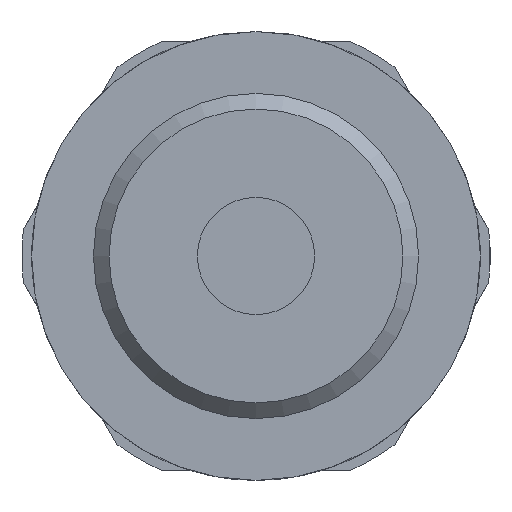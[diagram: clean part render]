
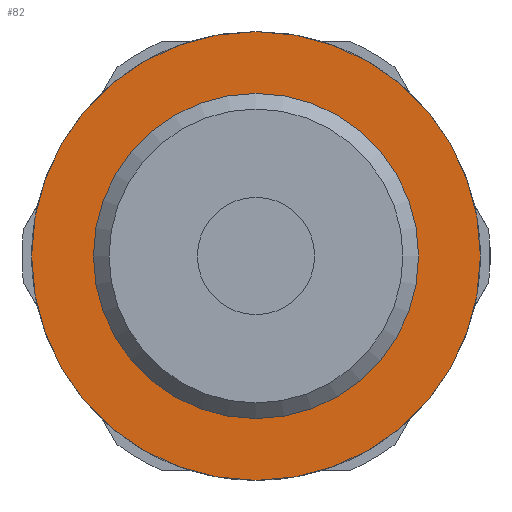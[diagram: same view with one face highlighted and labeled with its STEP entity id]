
A CAD part, front view. The second image highlights one B-rep face of the part: STEP entity #82.
In plain terms, the highlighted planar face has unit normal (0, -1, 0).
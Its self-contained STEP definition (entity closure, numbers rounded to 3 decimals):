
#82 = ADVANCED_FACE( '', ( #137, #138 ), #139, .F. );
#137 = FACE_BOUND( '', #234, .T. );
#138 = FACE_OUTER_BOUND( '', #235, .T. );
#139 = PLANE( '', #236 );
#234 = EDGE_LOOP( '', ( #354 ) );
#235 = EDGE_LOOP( '', ( #355 ) );
#236 = AXIS2_PLACEMENT_3D( '', #356, #357, #358 );
#354 = ORIENTED_EDGE( '', *, *, #622, .F. );
#355 = ORIENTED_EDGE( '', *, *, #623, .T. );
#356 = CARTESIAN_POINT( '', ( 11.5, 0., 0. ) );
#357 = DIRECTION( '', ( 0., 1., 0. ) );
#358 = DIRECTION( '', ( 0., 0., 1. ) );
#622 = EDGE_CURVE( '', #718, #718, #719, .T. );
#623 = EDGE_CURVE( '', #720, #720, #721, .T. );
#718 = VERTEX_POINT( '', #866 );
#719 = CIRCLE( '', #867, 8.331 );
#720 = VERTEX_POINT( '', #868 );
#721 = CIRCLE( '', #869, 11.5 );
#866 = CARTESIAN_POINT( '', ( 0., 0., -8.331 ) );
#867 = AXIS2_PLACEMENT_3D( '', #1057, #1058, #1059 );
#868 = CARTESIAN_POINT( '', ( 0., 0., -11.5 ) );
#869 = AXIS2_PLACEMENT_3D( '', #1060, #1061, #1062 );
#1057 = CARTESIAN_POINT( '', ( 0., 0., 0. ) );
#1058 = DIRECTION( '', ( 0., -1., 0. ) );
#1059 = DIRECTION( '', ( 0., 0., -1. ) );
#1060 = CARTESIAN_POINT( '', ( 0., 0., 0. ) );
#1061 = DIRECTION( '', ( 0., -1., 0. ) );
#1062 = DIRECTION( '', ( 0., 0., -1. ) );
